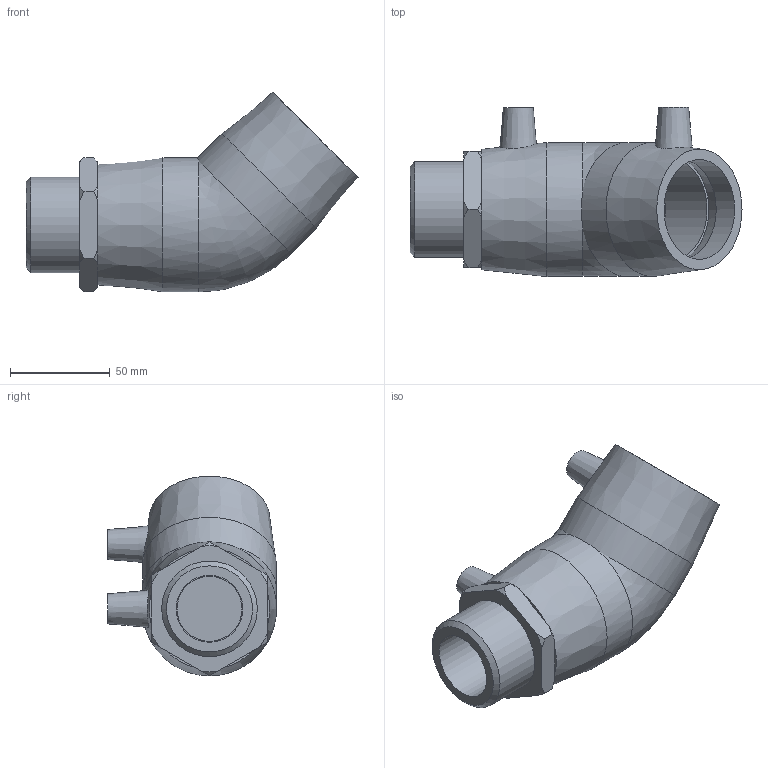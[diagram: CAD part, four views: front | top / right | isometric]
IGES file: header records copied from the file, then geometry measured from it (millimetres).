
Global section: file name: 492604050015.ipt; native system: Autodesk Inventor 2015; preprocessor: unknown; author: KIM; date: 20200202.122425; units: millimetre
Bounding box: 166 x 84.5 x 99.84 mm (x, y, z)
Volume: 315544.5 mm3; surface area: 62940.8 mm2
Topology: 1 solids, 2 shells, 59 faces, 142 edges, 97 vertices
Faces by surface type: plane 24, cone 17, revolution 10, cylinder 7, bspline 1
Full cylindrical faces by diameter (mm): 4 x2, 47.803 x1, 50 x2, 67 x2
